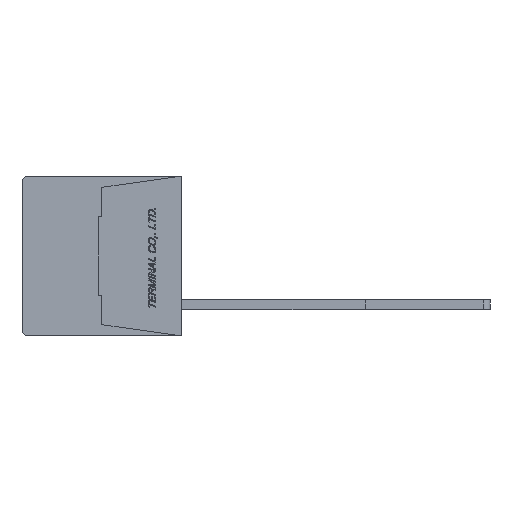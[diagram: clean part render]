
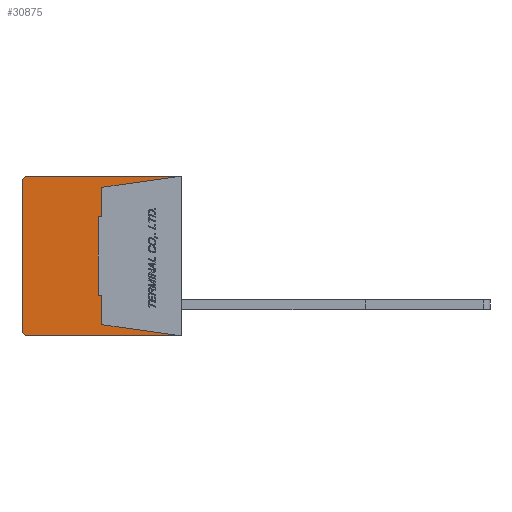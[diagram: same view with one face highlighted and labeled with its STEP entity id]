
A CAD part, left-side view. The second image highlights one B-rep face of the part: STEP entity #30875.
In plain terms, the highlighted planar face has unit normal (-1, 0, 0).
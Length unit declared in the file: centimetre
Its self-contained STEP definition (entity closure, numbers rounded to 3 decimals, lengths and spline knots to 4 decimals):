
#1577=CIRCLE('',#52764,0.05);
#1578=CIRCLE('',#52767,0.05);
#2780=VERTEX_POINT('',#43025);
#2781=VERTEX_POINT('',#43027);
#2782=VERTEX_POINT('',#43031);
#2783=VERTEX_POINT('',#43035);
#2784=VERTEX_POINT('',#43039);
#2785=VERTEX_POINT('',#43043);
#2786=VERTEX_POINT('',#43047);
#2787=VERTEX_POINT('',#43049);
#2788=VERTEX_POINT('',#43051);
#2789=VERTEX_POINT('',#43053);
#2790=VERTEX_POINT('',#43055);
#2791=VERTEX_POINT('',#43057);
#6055=VECTOR('',#35803,1.);
#6059=VECTOR('',#35812,1.);
#6062=VECTOR('',#35820,1.);
#6063=VECTOR('',#35822,1.);
#6064=VECTOR('',#35823,1.);
#6065=VECTOR('',#35824,1.);
#6066=VECTOR('',#35825,1.);
#6067=VECTOR('',#35826,1.);
#6068=VECTOR('',#35827,1.);
#6069=VECTOR('',#35828,1.);
#9684=LINE('',#43026,#6055);
#9688=LINE('',#43036,#6059);
#9691=LINE('',#43044,#6062);
#9692=LINE('',#43046,#6063);
#9693=LINE('',#43048,#6064);
#9694=LINE('',#43050,#6065);
#9695=LINE('',#43052,#6066);
#9696=LINE('',#43054,#6067);
#9697=LINE('',#43056,#6068);
#9698=LINE('',#43058,#6069);
#13735=EDGE_CURVE('',#2781,#2780,#9684,.T.);
#13738=EDGE_CURVE('',#2782,#2780,#1577,.T.);
#13740=EDGE_CURVE('',#2782,#2783,#9688,.T.);
#13742=EDGE_CURVE('',#2784,#2783,#1578,.T.);
#13744=EDGE_CURVE('',#2784,#2785,#9691,.T.);
#13745=EDGE_CURVE('',#2786,#2781,#9692,.T.);
#13746=EDGE_CURVE('',#2785,#2787,#9693,.T.);
#13747=EDGE_CURVE('',#2787,#2788,#9694,.T.);
#13748=EDGE_CURVE('',#2788,#2789,#9695,.T.);
#13749=EDGE_CURVE('',#2789,#2790,#9696,.T.);
#13750=EDGE_CURVE('',#2790,#2791,#9697,.T.);
#13751=EDGE_CURVE('',#2791,#2786,#9698,.T.);
#20053=ORIENTED_EDGE('',*,*,#13745,.T.);
#20054=ORIENTED_EDGE('',*,*,#13735,.T.);
#20055=ORIENTED_EDGE('',*,*,#13738,.F.);
#20056=ORIENTED_EDGE('',*,*,#13740,.T.);
#20057=ORIENTED_EDGE('',*,*,#13742,.F.);
#20058=ORIENTED_EDGE('',*,*,#13744,.T.);
#20059=ORIENTED_EDGE('',*,*,#13746,.T.);
#20060=ORIENTED_EDGE('',*,*,#13747,.T.);
#20061=ORIENTED_EDGE('',*,*,#13748,.T.);
#20062=ORIENTED_EDGE('',*,*,#13749,.T.);
#20063=ORIENTED_EDGE('',*,*,#13750,.T.);
#20064=ORIENTED_EDGE('',*,*,#13751,.T.);
#26886=EDGE_LOOP('',(#20053,#20054,#20055,#20056,#20057,#20058,#20059,#20060,
#20061,#20062,#20063,#20064));
#28931=FACE_BOUND('',#26886,.T.);
#30875=ADVANCED_FACE('',(#28931),#32547,.F.);
#32547=PLANE('',#52769);
#35803=DIRECTION('',(0.,1.,0.));
#35808=DIRECTION('',(1.,0.,0.));
#35809=DIRECTION('',(0.,0.,-0.05));
#35812=DIRECTION('',(0.,0.,-1.));
#35816=DIRECTION('',(1.,0.,0.));
#35817=DIRECTION('',(0.,0.,-0.05));
#35820=DIRECTION('',(0.,-1.,0.));
#35821=DIRECTION('',(1.,0.,0.));
#35822=DIRECTION('',(0.,-0.99,0.139));
#35823=DIRECTION('',(0.,0.99,0.139));
#35824=DIRECTION('',(0.,0.,1.));
#35825=DIRECTION('',(0.,1.,0.));
#35826=DIRECTION('',(0.,0.,1.));
#35827=DIRECTION('',(0.,-1.,0.));
#35828=DIRECTION('',(0.,0.,1.));
#43025=CARTESIAN_POINT('',(-1.,1.23,0.64));
#43026=CARTESIAN_POINT('',(-1.,0.,0.64));
#43027=CARTESIAN_POINT('',(-1.,0.,0.64));
#43031=CARTESIAN_POINT('',(-1.,1.28,0.59));
#43032=CARTESIAN_POINT('',(-1.,1.23,0.59));
#43035=CARTESIAN_POINT('',(-1.,1.28,-0.59));
#43036=CARTESIAN_POINT('',(-1.,1.28,0.59));
#43039=CARTESIAN_POINT('',(-1.,1.23,-0.64));
#43040=CARTESIAN_POINT('',(-1.,1.23,-0.59));
#43043=CARTESIAN_POINT('',(-1.,0.,-0.64));
#43044=CARTESIAN_POINT('',(-1.,1.23,-0.64));
#43045=CARTESIAN_POINT('',(-1.,0.6345,0.));
#43046=CARTESIAN_POINT('',(-1.,0.64,0.55));
#43047=CARTESIAN_POINT('',(-1.,0.64,0.55));
#43048=CARTESIAN_POINT('',(-1.,0.,-0.64));
#43049=CARTESIAN_POINT('',(-1.,0.64,-0.55));
#43050=CARTESIAN_POINT('',(-1.,0.64,-0.55));
#43051=CARTESIAN_POINT('',(-1.,0.64,-0.315));
#43052=CARTESIAN_POINT('',(-1.,0.64,-0.315));
#43053=CARTESIAN_POINT('',(-1.,0.67,-0.315));
#43054=CARTESIAN_POINT('',(-1.,0.67,-0.315));
#43055=CARTESIAN_POINT('',(-1.,0.67,0.315));
#43056=CARTESIAN_POINT('',(-1.,0.67,0.315));
#43057=CARTESIAN_POINT('',(-1.,0.64,0.315));
#43058=CARTESIAN_POINT('',(-1.,0.64,0.315));
#52764=AXIS2_PLACEMENT_3D('',#43032,#35808,#35809);
#52767=AXIS2_PLACEMENT_3D('',#43040,#35816,#35817);
#52769=AXIS2_PLACEMENT_3D('',#43045,#35821,$);
